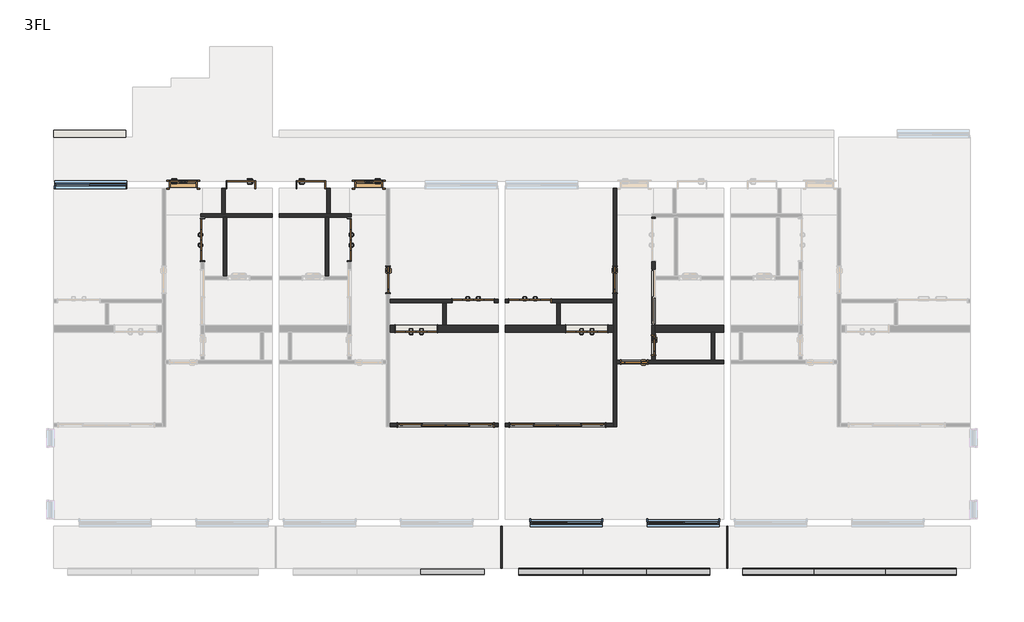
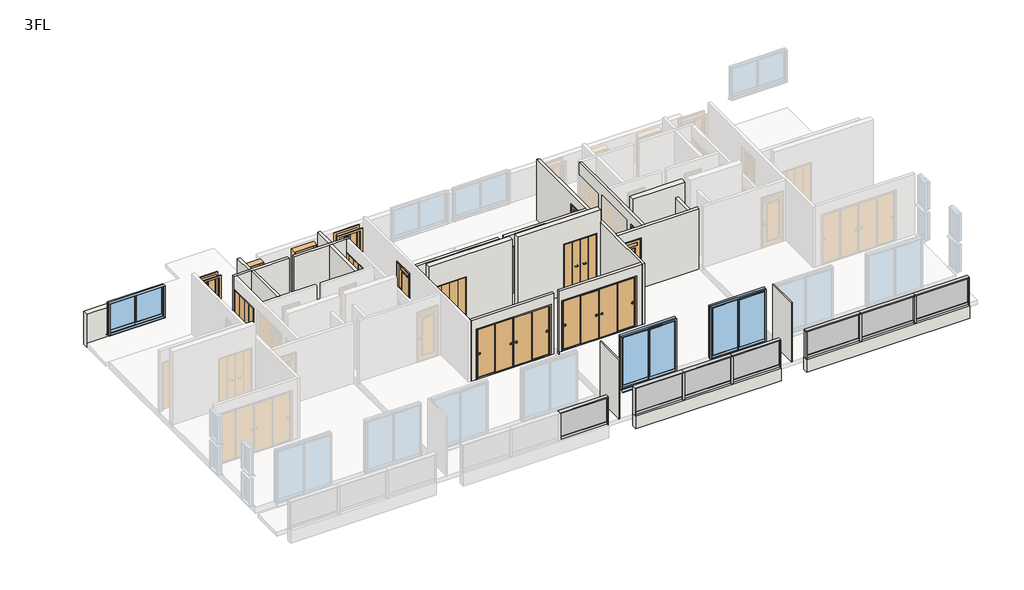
# One storey, part 2 of 3: 24 walls, 16 doors, 16 members, 7 plates, 3 windows.
"""IFC4 building model written with IfcOpenShell, lengths in millimetres."""

from ifc_helpers import new_model, si_unit, frame, origin, place, context, project, spatial, polyline, outline, extrude, faceted_brep, transform, mapped, element, save
from components import door_1200x2000_98cacc9b, door_1200x2000_6a144d60, door_1200x2000_ebe1d490, door_1200x2000_99d19fb3, door_2800x2000_670b855b, door_2800x2000_04aa64cd, door_600x2000_7f2747f4, door_800x2000_a7d1584b, door_800x2000_13e9f519, door_800x2000_ccb03061, door_800x2000_010bfebf, w800h2000_1d97c4d4, w800h2000_0ab7d42c, member_25x150_3f8205e2, member_25x150_e252ec85, member_25x150_8b8be5b9, member_25x150_69a01d83, member_25x150_4c9d34cf, member_70x150_851c8a9b, plate_5aac5250, plate_977e9fc7, plate_28239825, plate_ce56c4f8, window_2000x1200_fc91d1cf, window_2000x2000_f1ff98da

model = new_model("IFC4")

# Units and contexts
model_context = context("Model", 3, world=origin())
ifc_project = project(units=[si_unit("LENGTHUNIT", "METRE", prefix="MILLI")], contexts=[model_context])

# Site, building, storey
site = spatial("IfcSite", under=ifc_project)
building = spatial("IfcBuilding", under=site)
storey = spatial("IfcBuildingStorey", under=building, Name="3FL", Elevation=7000.0)

# Doors
placement = place(None, origin())
door_1200x2000_shape = door_1200x2000_98cacc9b(model_context)
element("IfcDoor", 1, ObjectType="木製折戸 : 1200x2000", at=placement, inside=storey, context=model_context, shape_type="MappedRepresentation", body=[
    mapped(door_1200x2000_shape, transform((4158.7812754, -9820.1171638, 7100.0), x_axis=(-1.0, 0.0, 0.0), y_axis=(0.0, -1.0, 0.0), z_axis=(0.0, 0.0, 1.0))),
])
door_1200x2000_2_shape = door_1200x2000_6a144d60(model_context)
element("IfcDoor", 2, ObjectType="木製折戸 : 1200x2000", at=placement, inside=storey, context=model_context, shape_type="MappedRepresentation", body=[
    mapped(door_1200x2000_2_shape, transform((-6828.7187246, -7280.1171638, 7000.0), x_axis=(0.0, 1.0, 0.0), y_axis=(-1.0, 0.0, 0.0), z_axis=(0.0, 0.0, 1.0))),
])
element("IfcDoor", 3, ObjectType="木製折戸 : 1200x2000", at=placement, inside=storey, context=model_context, shape_type="MappedRepresentation", body=[
    mapped(door_1200x2000_2_shape, transform((2533.7812754, -9020.1171638, 7000.0), x_axis=(1.0, 0.0, 0.0), y_axis=(0.0, 1.0, 0.0), z_axis=(0.0, 0.0, 1.0))),
])
door_1200x2000_3_shape = door_1200x2000_ebe1d490(model_context)
element("IfcDoor", 4, ObjectType="木製折戸 : 1200x2000", at=placement, inside=storey, context=model_context, shape_type="MappedRepresentation", body=[
    mapped(door_1200x2000_3_shape, transform((-716.2187246, -9820.1171638, 7100.0), x_axis=(1.0, 0.0, 0.0), y_axis=(0.0, 1.0, 0.0), z_axis=(0.0, 0.0, 1.0))),
])
door_1200x2000_4_shape = door_1200x2000_99d19fb3(model_context)
element("IfcDoor", 5, ObjectType="木製折戸 : 1200x2000", at=placement, inside=storey, context=model_context, shape_type="MappedRepresentation", body=[
    mapped(door_1200x2000_4_shape, transform((-2628.7187246, -7280.1171638, 7000.0), x_axis=(0.0, 1.0, 0.0), y_axis=(-1.0, 0.0, 0.0), z_axis=(0.0, 0.0, 1.0))),
])
element("IfcDoor", 6, ObjectType="木製折戸 : 1200x2000", at=placement, inside=storey, context=model_context, shape_type="MappedRepresentation", body=[
    mapped(door_1200x2000_4_shape, transform((908.7812754, -9020.1171638, 7000.0), x_axis=(-1.0, 0.0, 0.0), y_axis=(0.0, -1.0, 0.0), z_axis=(0.0, 0.0, 1.0))),
])
door_2800x2000_shape = door_2800x2000_670b855b(model_context)
element("IfcDoor", 7, ObjectType="引違い 4 枚 2 溝_襖 : 2800x2000", at=placement, inside=storey, context=model_context, shape_type="MappedRepresentation", body=[
    mapped(door_2800x2000_shape, transform((3326.8167793, -12570.1171638, 7100.0), x_axis=(1.0, 0.0, 0.0), y_axis=(0.0, 1.0, 0.0), z_axis=(0.0, 0.0, 1.0))),
])
door_2800x2000_2_shape = door_2800x2000_04aa64cd(model_context)
element("IfcDoor", 8, ObjectType="引違い 4 枚 2 溝_襖 : 2800x2000", at=placement, inside=storey, context=model_context, shape_type="MappedRepresentation", body=[
    mapped(door_2800x2000_2_shape, transform((115.7457714, -12570.1171638, 7100.0), x_axis=(-1.0, 0.0, 0.0), y_axis=(0.0, -1.0, 0.0), z_axis=(0.0, 0.0, 1.0))),
])
door_600x2000_shape = door_600x2000_7f2747f4(model_context)
element("IfcDoor", 9, ObjectType="片開き戸CL2058 : 600x2000", at=placement, inside=storey, context=model_context, shape_type="MappedRepresentation", body=[
    mapped(door_600x2000_shape, transform((6071.2812754, -10295.1171638, 7100.0), x_axis=(0.0, -1.0, 0.0), y_axis=(1.0, 0.0, 0.0), z_axis=(0.0, 0.0, 1.0))),
])
door_800x2000_shape = door_800x2000_a7d1584b(model_context)
element("IfcDoor", 10, ObjectType="片開き3 : 800x2000", at=placement, inside=storey, context=model_context, shape_type="MappedRepresentation", body=[
    mapped(door_800x2000_shape, transform((-7378.7187246, -5700.1171638, 7000.0), x_axis=(1.0, 0.0, 0.0), y_axis=(0.0, 1.0, 0.0), z_axis=(0.0, 0.0, 1.0))),
])
door_800x2000_2_shape = door_800x2000_13e9f519(model_context)
element("IfcDoor", 11, ObjectType="片開き戸CL2058 : 800x2000", at=placement, inside=storey, context=model_context, shape_type="MappedRepresentation", body=[
    mapped(door_800x2000_2_shape, transform((4971.2812754, -8420.1171638, 7100.0), x_axis=(0.0, -1.0, 0.0), y_axis=(1.0, 0.0, 0.0), z_axis=(0.0, 0.0, 1.0))),
])
door_800x2000_3_shape = door_800x2000_ccb03061(model_context)
element("IfcDoor", 12, ObjectType="片開き戸CL2058 : 800x2000", at=placement, inside=storey, context=model_context, shape_type="MappedRepresentation", body=[
    mapped(door_800x2000_3_shape, transform((-1528.7187246, -8420.1171638, 7100.0), x_axis=(0.0, -1.0, 0.0), y_axis=(1.0, 0.0, 0.0), z_axis=(0.0, 0.0, 1.0))),
])
element("IfcDoor", 13, ObjectType="片開き戸CL2058 : 800x2000", at=placement, inside=storey, context=model_context, shape_type="MappedRepresentation", body=[
    mapped(door_800x2000_3_shape, transform((5521.2812754, -10770.1171638, 7100.0), x_axis=(-1.0, 0.0, 0.0), y_axis=(0.0, -1.0, 0.0), z_axis=(0.0, 0.0, 1.0))),
])
door_800x2000_4_shape = door_800x2000_010bfebf(model_context)
element("IfcDoor", 14, ObjectType="片開き3 : 800x2000", at=placement, inside=storey, context=model_context, shape_type="MappedRepresentation", body=[
    mapped(door_800x2000_4_shape, transform((-2078.7187246, -5700.1171638, 7000.0), x_axis=(-1.0, 0.0, 0.0), y_axis=(0.0, -1.0, 0.0), z_axis=(0.0, 0.0, 1.0))),
])
w800h2000_shape = w800h2000_1d97c4d4(model_context)
element("IfcDoor", 15, ObjectType="片開き : w800h2000", at=placement, inside=storey, context=model_context, shape_type="MappedRepresentation", body=[
    mapped(w800h2000_shape, transform((-5728.7187246, -5700.1171638, 7000.0), x_axis=(-1.0, 0.0, 0.0), y_axis=(0.0, -1.0, 0.0), z_axis=(0.0, 0.0, 1.0))),
])
w800h2000_2_shape = w800h2000_0ab7d42c(model_context)
element("IfcDoor", 16, ObjectType="片開き : w800h2000", at=placement, inside=storey, context=model_context, shape_type="MappedRepresentation", body=[
    mapped(w800h2000_2_shape, transform((-3728.7187246, -5700.1171638, 7000.0), x_axis=(1.0, 0.0, 0.0), y_axis=(0.0, 1.0, 0.0), z_axis=(0.0, 0.0, 1.0))),
])

# Members
member_25x150_shape = member_25x150_3f8205e2(model_context)
element("IfcMember", 17, ObjectType="長方形のマリオン : 25x150", at=placement, inside=storey, context=model_context, shape_type="MappedRepresentation", body=[
    mapped(member_25x150_shape, transform((1221.2812754, -16770.1171638, 7000.0), x_axis=(1.0, 0.0, 0.0), y_axis=(0.0, -1.0, 0.0), z_axis=(0.0, 0.0, -1.0))),
])
element("IfcMember", 18, ObjectType="長方形のマリオン : 25x150", at=placement, inside=storey, context=model_context, shape_type="MappedRepresentation", body=[
    mapped(member_25x150_shape, transform((7671.2812754, -16770.1171638, 7000.0), x_axis=(1.0, 0.0, 0.0), y_axis=(0.0, -1.0, 0.0), z_axis=(0.0, 0.0, -1.0))),
])
element("IfcMember", 19, ObjectType="長方形のマリオン : 25x150", at=placement, inside=storey, context=model_context, shape_type="MappedRepresentation", body=[
    mapped(member_25x150_shape, transform((14721.2812754, -16770.1171638, 7000.0), x_axis=(1.0, 0.0, 0.0), y_axis=(0.0, -1.0, 0.0), z_axis=(0.0, 0.0, -1.0))),
])
element("IfcMember", 20, ObjectType="長方形のマリオン : 25x150", at=placement, inside=storey, context=model_context, shape_type="MappedRepresentation", body=[
    mapped(member_25x150_shape, transform((2221.2812754, -16770.1171638, 8075.0), x_axis=(-1.0, 0.0, 0.0), y_axis=(0.0, -1.0, 0.0), z_axis=(0.0, 0.0, 1.0))),
])
element("IfcMember", 21, ObjectType="長方形のマリオン : 25x150", at=placement, inside=storey, context=model_context, shape_type="MappedRepresentation", body=[
    mapped(member_25x150_shape, transform((8621.2812754, -16770.1171638, 8075.0), x_axis=(-1.0, 0.0, 0.0), y_axis=(0.0, -1.0, 0.0), z_axis=(0.0, 0.0, 1.0))),
])
member_25x150_2_shape = member_25x150_e252ec85(model_context)
element("IfcMember", 22, ObjectType="長方形のマリオン : 25x150", at=placement, inside=storey, context=model_context, shape_type="MappedRepresentation", body=[
    mapped(member_25x150_2_shape, transform((1221.2812754, -16770.1171638, 8100.0), x_axis=(0.0, 0.0, 1.0), y_axis=(0.0, -1.0, 0.0), z_axis=(1.0, 0.0, 0.0))),
])
element("IfcMember", 23, ObjectType="長方形のマリオン : 25x150", at=placement, inside=storey, context=model_context, shape_type="MappedRepresentation", body=[
    mapped(member_25x150_2_shape, transform((7671.2812754, -16770.1171638, 8100.0), x_axis=(0.0, 0.0, 1.0), y_axis=(0.0, -1.0, 0.0), z_axis=(1.0, 0.0, 0.0))),
])
element("IfcMember", 24, ObjectType="長方形のマリオン : 25x150", at=placement, inside=storey, context=model_context, shape_type="MappedRepresentation", body=[
    mapped(member_25x150_2_shape, transform((4037.9479421, -16770.1171638, 8100.0), x_axis=(0.0, 0.0, 1.0), y_axis=(0.0, -1.0, 0.0), z_axis=(1.0, 0.0, 0.0))),
])
member_25x150_3_shape = member_25x150_8b8be5b9(model_context)
element("IfcMember", 25, ObjectType="長方形のマリオン : 25x150", at=placement, inside=storey, context=model_context, shape_type="MappedRepresentation", body=[
    mapped(member_25x150_3_shape, transform((5854.6146086, -16770.1171638, 8100.0), x_axis=(0.0, 0.0, 1.0), y_axis=(0.0, -1.0, 0.0), z_axis=(1.0, 0.0, 0.0))),
])
member_25x150_4_shape = member_25x150_69a01d83(model_context)
element("IfcMember", 26, ObjectType="長方形のマリオン : 25x150", at=placement, inside=storey, context=model_context, shape_type="MappedRepresentation", body=[
    mapped(member_25x150_4_shape, transform((14721.2812754, -16770.1171638, 8100.0), x_axis=(0.0, 0.0, 1.0), y_axis=(0.0, -1.0, 0.0), z_axis=(1.0, 0.0, 0.0))),
])
element("IfcMember", 27, ObjectType="長方形のマリオン : 25x150", at=placement, inside=storey, context=model_context, shape_type="MappedRepresentation", body=[
    mapped(member_25x150_4_shape, transform((10654.6146088, -16770.1171638, 8100.0), x_axis=(0.0, 0.0, 1.0), y_axis=(0.0, -1.0, 0.0), z_axis=(1.0, 0.0, 0.0))),
])
member_25x150_5_shape = member_25x150_4c9d34cf(model_context)
element("IfcMember", 28, ObjectType="長方形のマリオン : 25x150", at=placement, inside=storey, context=model_context, shape_type="MappedRepresentation", body=[
    mapped(member_25x150_5_shape, transform((12687.9479419, -16770.1171638, 8100.0), x_axis=(0.0, 0.0, 1.0), y_axis=(0.0, -1.0, 0.0), z_axis=(1.0, 0.0, 0.0))),
])
member_70x150_shape = member_70x150_851c8a9b(model_context)
element("IfcMember", 29, ObjectType="長方形のマリオン : 70x150", at=placement, inside=storey, context=model_context, shape_type="MappedRepresentation", body=[
    mapped(member_70x150_shape, transform((4037.9479421, -16770.1171638, 7000.0), x_axis=(1.0, 0.0, 0.0), y_axis=(0.0, -1.0, 0.0), z_axis=(0.0, 0.0, -1.0))),
])
element("IfcMember", 30, ObjectType="長方形のマリオン : 70x150", at=placement, inside=storey, context=model_context, shape_type="MappedRepresentation", body=[
    mapped(member_70x150_shape, transform((5854.6146086, -16770.1171638, 7000.0), x_axis=(1.0, 0.0, 0.0), y_axis=(0.0, -1.0, 0.0), z_axis=(0.0, 0.0, -1.0))),
])
element("IfcMember", 31, ObjectType="長方形のマリオン : 70x150", at=placement, inside=storey, context=model_context, shape_type="MappedRepresentation", body=[
    mapped(member_70x150_shape, transform((10654.6146088, -16770.1171638, 7000.0), x_axis=(1.0, 0.0, 0.0), y_axis=(0.0, -1.0, 0.0), z_axis=(0.0, 0.0, -1.0))),
])
element("IfcMember", 32, ObjectType="長方形のマリオン : 70x150", at=placement, inside=storey, context=model_context, shape_type="MappedRepresentation", body=[
    mapped(member_70x150_shape, transform((12687.9479419, -16770.1171638, 7000.0), x_axis=(1.0, 0.0, 0.0), y_axis=(0.0, -1.0, 0.0), z_axis=(0.0, 0.0, -1.0))),
])

# Plates
plate_shape = plate_5aac5250(model_context)
element("IfcPlate", 33, ObjectType="r パネル FIX 下框付 : 框 H100", at=placement, inside=storey, context=model_context, shape_type="MappedRepresentation", body=[
    mapped(plate_shape, transform((317.947942, -16770.1171638, 7000.0), x_axis=(1.0, 0.0, 0.0), y_axis=(0.0, 1.0, 0.0), z_axis=(0.0, 0.0, 1.0))),
])
element("IfcPlate", 34, ObjectType="r パネル FIX 下框付 : 框 H100", at=placement, inside=storey, context=model_context, shape_type="MappedRepresentation", body=[
    mapped(plate_shape, transform((3124.6146087, -16770.1171638, 7000.0), x_axis=(1.0, 0.0, 0.0), y_axis=(0.0, 1.0, 0.0), z_axis=(0.0, 0.0, 1.0))),
])
element("IfcPlate", 35, ObjectType="r パネル FIX 下框付 : 框 H100", at=placement, inside=storey, context=model_context, shape_type="MappedRepresentation", body=[
    mapped(plate_shape, transform((6767.947942, -16770.1171638, 7000.0), x_axis=(1.0, 0.0, 0.0), y_axis=(0.0, 1.0, 0.0), z_axis=(0.0, 0.0, 1.0))),
])
plate_2_shape = plate_977e9fc7(model_context)
element("IfcPlate", 36, ObjectType="r パネル FIX 下框付 : 框 H100", at=placement, inside=storey, context=model_context, shape_type="MappedRepresentation", body=[
    mapped(plate_2_shape, transform((4946.2812754, -16770.1171638, 7000.0), x_axis=(1.0, 0.0, 0.0), y_axis=(0.0, 1.0, 0.0), z_axis=(0.0, 0.0, 1.0))),
])
plate_3_shape = plate_28239825(model_context)
element("IfcPlate", 37, ObjectType="r パネル FIX 下框付 : 框 H100", at=placement, inside=storey, context=model_context, shape_type="MappedRepresentation", body=[
    mapped(plate_3_shape, transform((9632.9479421, -16770.1171638, 7000.0), x_axis=(1.0, 0.0, 0.0), y_axis=(0.0, 1.0, 0.0), z_axis=(0.0, 0.0, 1.0))),
])
element("IfcPlate", 38, ObjectType="r パネル FIX 下框付 : 框 H100", at=placement, inside=storey, context=model_context, shape_type="MappedRepresentation", body=[
    mapped(plate_3_shape, transform((13709.6146086, -16770.1171638, 7000.0), x_axis=(1.0, 0.0, 0.0), y_axis=(0.0, 1.0, 0.0), z_axis=(0.0, 0.0, 1.0))),
])
plate_4_shape = plate_ce56c4f8(model_context)
element("IfcPlate", 39, ObjectType="r パネル FIX 下框付 : 框 H100", at=placement, inside=storey, context=model_context, shape_type="MappedRepresentation", body=[
    mapped(plate_4_shape, transform((11671.2812754, -16770.1171638, 7000.0), x_axis=(1.0, 0.0, 0.0), y_axis=(0.0, 1.0, 0.0), z_axis=(0.0, 0.0, 1.0))),
])

# Walls
element("IfcWall", 40, ObjectType="(R)RC200", at=placement, inside=storey, context=model_context, shape_type="Brep", body=[
    faceted_brep([(1621.2812754, -9720.1171638, 7000.0), (146.2812754, -9720.1171638, 7000.0), (46.2812754, -9720.1171638, 7000.0), (-1478.7187246, -9720.1171638, 7000.0), (-1478.7187246, -9720.1171638, 10000.0), (1621.2812754, -9720.1171638, 10000.0), (-96.2187246, -9720.1171638, 9120.0), (-1336.2187246, -9720.1171638, 9120.0), (-1336.2187246, -9720.1171638, 7100.0), (-96.2187246, -9720.1171638, 7100.0), (1621.2812754, -9920.1171638, 7000.0), (1621.2812754, -9920.1171638, 10000.0), (-1478.7187246, -9920.1171638, 10000.0), (-1478.7187246, -9920.1171638, 7000.0), (-96.2187246, -9920.1171638, 9120.0), (-96.2187246, -9920.1171638, 7100.0), (-1336.2187246, -9920.1171638, 7100.0), (-1336.2187246, -9920.1171638, 9120.0)], [[[0, 1, 2, 3, 4, 5], [6, 7, 8, 9]], [[10, 11, 12, 13], [14, 15, 16, 17]], [[3, 2, 1, 0, 10, 13]], [[5, 4, 12, 11]], [[15, 14, 6, 9]], [[16, 15, 9, 8]], [[17, 16, 8, 7]], [[14, 17, 7, 6]], [[4, 3, 13, 12]], [[0, 5, 11, 10]]]),
])
element("IfcWall", 41, ObjectType="(R)RC200", at=placement, inside=storey, context=model_context, shape_type="Brep", body=[
    faceted_brep([(1821.2812754, -9920.1171638, 7000.0), (4921.2812754, -9920.1171638, 7000.0), (4921.2812754, -9920.1171638, 10000.0), (1821.2812754, -9920.1171638, 10000.0), (3538.7812754, -9920.1171638, 9120.0), (4778.7812754, -9920.1171638, 9120.0), (4778.7812754, -9920.1171638, 7100.0), (3538.7812754, -9920.1171638, 7100.0), (1821.2812754, -9720.1171638, 7000.0), (1821.2812754, -9720.1171638, 10000.0), (4921.2812754, -9720.1171638, 10000.0), (4921.2812754, -9720.1171638, 7000.0), (3396.2812754, -9720.1171638, 7000.0), (3296.2812754, -9720.1171638, 7000.0), (3538.7812754, -9720.1171638, 9120.0), (3538.7812754, -9720.1171638, 7100.0), (4778.7812754, -9720.1171638, 7100.0), (4778.7812754, -9720.1171638, 9120.0)], [[[0, 1, 2, 3], [4, 5, 6, 7]], [[8, 9, 10, 11, 12, 13], [14, 15, 16, 17]], [[1, 0, 8, 13, 12, 11]], [[3, 2, 10, 9]], [[15, 14, 4, 7]], [[16, 15, 7, 6]], [[17, 16, 6, 5]], [[14, 17, 5, 4]], [[2, 1, 11, 10]], [[0, 3, 9, 8]]]),
])
element("IfcWall", 42, ObjectType="(R)RC200", at=placement, inside=storey, context=model_context, shape_type="Brep", body=[
    faceted_brep([(6121.2812754, -9920.1171638, 7000.0), (7721.2812754, -9920.1171638, 7000.0), (7821.2812754, -9920.1171638, 7000.0), (8071.2812754, -9920.1171638, 7000.0), (8071.2812754, -9920.1171638, 10000.0), (6121.2812754, -9920.1171638, 10000.0), (6121.2812754, -9720.1171638, 7000.0), (6121.2812754, -9720.1171638, 7100.0), (6121.2812754, -9720.1171638, 9100.0), (6121.2812754, -9720.1171638, 10000.0), (8071.2812754, -9720.1171638, 10000.0), (8071.2812754, -9720.1171638, 7000.0)], [[[0, 1, 2, 3, 4, 5]], [[6, 7, 8, 9, 10, 11]], [[3, 2, 1, 0, 6, 11]], [[5, 4, 10, 9]], [[0, 5, 9, 8, 7, 6]], [[4, 3, 11, 10]]]),
])
element("IfcWall", 43, ObjectType="(R)RC200", at=placement, inside=storey, context=model_context, shape_type="Brep", body=[
    faceted_brep([(-11078.7187246, -4350.1171638, 6800.0), (-9028.7187246, -4350.1171638, 6800.0), (-9028.7187246, -4350.1171638, 8068.2352941), (-9028.7187246, -4350.1171638, 8100.0), (-11078.7187246, -4350.1171638, 8100.0), (-11078.7187246, -4150.1171638, 6800.0), (-11078.7187246, -4150.1171638, 8100.0), (-9028.7187246, -4150.1171638, 8100.0), (-9028.7187246, -4150.1171638, 6800.0)], [[[0, 1, 2, 3, 4]], [[5, 6, 7, 8]], [[1, 0, 5, 8]], [[4, 3, 7, 6]], [[0, 4, 6, 5]], [[3, 2, 1, 8, 7]]]),
])
element("IfcWall", 44, ObjectType="(R)RC200", at=placement, inside=storey, context=model_context, shape_type="SweptSolid", body=[
    extrude(outline(polyline([(7671.2812754, -16870.1171638), (2221.2812754, -16870.1171638), (2221.2812754, -16670.1171638), (7671.2812754, -16670.1171638), (7671.2812754, -16870.1171638)])), frame((0.0, 0.0, 6500.0), z_axis=(0.0, 0.0, 1.0), x_axis=(1.0, 0.0, 0.0)), (0.0, 0.0, 1.0), 500.0),
])
element("IfcWall", 45, ObjectType="(R)RC200", at=placement, inside=storey, context=model_context, shape_type="SweptSolid", body=[
    extrude(outline(polyline([(14721.2812754, -16870.1171638), (8621.2812754, -16870.1171638), (8621.2812754, -16670.1171638), (14721.2812754, -16670.1171638), (14721.2812754, -16870.1171638)])), frame((0.0, 0.0, 6500.0), z_axis=(0.0, 0.0, 1.0), x_axis=(1.0, 0.0, 0.0)), (0.0, 0.0, 1.0), 500.0),
])
element("IfcWall", 46, ObjectType="(F)30", at=placement, inside=storey, context=model_context, shape_type="SweptSolid", body=[
    extrude(outline(polyline([(1706.2812754, -16670.1171638), (1706.2812754, -15470.1171638), (1736.2812754, -15470.1171638), (1736.2812754, -16670.1171638), (1706.2812754, -16670.1171638)])), frame((0.0, 0.0, 6950.0), z_axis=(0.0, 0.0, 1.0), x_axis=(1.0, 0.0, 0.0)), (0.0, 0.0, 1.0), 2350.0),
])
element("IfcWall", 47, ObjectType="(F)30", at=placement, inside=storey, context=model_context, shape_type="SweptSolid", body=[
    extrude(outline(polyline([(8156.2812754, -16670.1171638), (8156.2812754, -15470.1171638), (8186.2812754, -15470.1171638), (8186.2812754, -16670.1171638), (8156.2812754, -16670.1171638)])), frame((0.0, 0.0, 6950.0), z_axis=(0.0, 0.0, 1.0), x_axis=(1.0, 0.0, 0.0)), (0.0, 0.0, 1.0), 2350.0),
])
element("IfcWall", 48, ObjectType="(L1)LGS100", at=placement, inside=storey, context=model_context, shape_type="Brep", body=[
    faceted_brep([(-6878.7187246, -6630.1171638, 7000.0), (-6778.7187246, -6630.1171638, 7000.0), (-6238.7187246, -6630.1171638, 7000.0), (-6138.7187246, -6630.1171638, 7000.0), (-4828.7187246, -6630.1171638, 7000.0), (-4828.7187246, -6630.1171638, 9500.0), (-6138.7187246, -6630.1171638, 9500.0), (-6238.7187246, -6630.1171638, 9500.0), (-6778.7187246, -6630.1171638, 9500.0), (-6878.7187246, -6630.1171638, 9500.0), (-6878.7187246, -6530.1171638, 7000.0), (-6878.7187246, -6530.1171638, 9500.0), (-6278.7187246, -6530.1171638, 9500.0), (-6178.7187246, -6530.1171638, 9500.0), (-4828.7187246, -6530.1171638, 9500.0), (-4828.7187246, -6530.1171638, 7000.0), (-6178.7187246, -6530.1171638, 7000.0), (-6278.7187246, -6530.1171638, 7000.0)], [[[0, 1, 2, 3, 4, 5, 6, 7, 8, 9]], [[10, 11, 12, 13, 14, 15, 16, 17]], [[4, 3, 2, 1, 0, 10, 17, 16, 15]], [[9, 8, 7, 6, 5, 14, 13, 12, 11]], [[0, 9, 11, 10]], [[5, 4, 15, 14]]]),
])
element("IfcWall", 49, ObjectType="(L1)LGS100", at=placement, inside=storey, context=model_context, shape_type="SweptSolid", body=[
    extrude(outline(polyline([(-6178.7187246, -5800.1171638), (-6178.7187246, -6530.1171638), (-6278.7187246, -6530.1171638), (-6278.7187246, -5800.1171638), (-6178.7187246, -5800.1171638)])), frame((0.0, 0.0, 7000.0), z_axis=(0.0, 0.0, 1.0), x_axis=(1.0, 0.0, 0.0)), (0.0, 0.0, 1.0), 2500.0),
])
element("IfcWall", 50, ObjectType="(L1)LGS100", at=placement, inside=storey, context=model_context, shape_type="SweptSolid", body=[
    extrude(outline(polyline([(-6138.7187246, -6630.1171638), (-6138.7187246, -8320.1171638), (-6238.7187246, -8320.1171638), (-6238.7187246, -6630.1171638), (-6138.7187246, -6630.1171638)])), frame((0.0, 0.0, 7000.0), z_axis=(0.0, 0.0, 1.0), x_axis=(1.0, 0.0, 0.0)), (0.0, 0.0, 1.0), 2500.0),
])
element("IfcWall", 51, ObjectType="(L1)LGS100", at=placement, inside=storey, context=model_context, shape_type="Brep", body=[
    faceted_brep([(-2578.7187246, -6530.1171638, 7000.0), (-3178.7187246, -6530.1171638, 7000.0), (-3278.7187246, -6530.1171638, 7000.0), (-4628.7187246, -6530.1171638, 7000.0), (-4628.7187246, -6530.1171638, 9500.0), (-3278.7187246, -6530.1171638, 9500.0), (-3178.7187246, -6530.1171638, 9500.0), (-2578.7187246, -6530.1171638, 9500.0), (-2578.7187246, -6630.1171638, 7000.0), (-2578.7187246, -6630.1171638, 9500.0), (-2678.7187246, -6630.1171638, 9500.0), (-3218.7187246, -6630.1171638, 9500.0), (-3318.7187246, -6630.1171638, 9500.0), (-4628.7187246, -6630.1171638, 9500.0), (-4628.7187246, -6630.1171638, 7000.0), (-3318.7187246, -6630.1171638, 7000.0), (-3218.7187246, -6630.1171638, 7000.0), (-2678.7187246, -6630.1171638, 7000.0)], [[[0, 1, 2, 3, 4, 5, 6, 7]], [[8, 9, 10, 11, 12, 13, 14, 15, 16, 17]], [[3, 2, 1, 0, 8, 17, 16, 15, 14]], [[7, 6, 5, 4, 13, 12, 11, 10, 9]], [[0, 7, 9, 8]], [[4, 3, 14, 13]]]),
])
element("IfcWall", 52, ObjectType="(L1)LGS100", at=placement, inside=storey, context=model_context, shape_type="SweptSolid", body=[
    extrude(outline(polyline([(-3178.7187246, -5800.1171638), (-3178.7187246, -6530.1171638), (-3278.7187246, -6530.1171638), (-3278.7187246, -5800.1171638), (-3178.7187246, -5800.1171638)])), frame((0.0, 0.0, 7000.0), z_axis=(0.0, 0.0, 1.0), x_axis=(1.0, 0.0, 0.0)), (0.0, 0.0, 1.0), 2500.0),
])
element("IfcWall", 53, ObjectType="(L1)LGS100", at=placement, inside=storey, context=model_context, shape_type="SweptSolid", body=[
    extrude(outline(polyline([(-3218.7187246, -6630.1171638), (-3218.7187246, -8320.1171638), (-3318.7187246, -8320.1171638), (-3318.7187246, -6630.1171638), (-3218.7187246, -6630.1171638)])), frame((0.0, 0.0, 7000.0), z_axis=(0.0, 0.0, 1.0), x_axis=(1.0, 0.0, 0.0)), (0.0, 0.0, 1.0), 2500.0),
])
element("IfcWall", 54, ObjectType="(L1)LGS100", at=placement, inside=storey, context=model_context, shape_type="Brep", body=[
    faceted_brep([(1621.2812754, -8970.1171638, 7000.0), (1528.7812754, -8970.1171638, 7000.0), (1528.7812754, -8970.1171638, 9020.0), (288.7812754, -8970.1171638, 9020.0), (288.7812754, -8970.1171638, 7000.0), (-1478.7187246, -8970.1171638, 7000.0), (-1478.7187246, -8970.1171638, 9500.0), (1621.2812754, -8970.1171638, 9500.0), (1528.7812754, -9070.1171638, 9020.0), (1528.7812754, -9070.1171638, 7000.0), (1621.2812754, -9070.1171638, 7000.0), (1621.2812754, -9070.1171638, 9500.0), (146.2812754, -9070.1171638, 9500.0), (46.2812754, -9070.1171638, 9500.0), (-1478.7187246, -9070.1171638, 9500.0), (-1478.7187246, -9070.1171638, 7000.0), (46.2812754, -9070.1171638, 7000.0), (146.2812754, -9070.1171638, 7000.0), (288.7812754, -9070.1171638, 7000.0), (288.7812754, -9070.1171638, 9020.0)], [[[0, 1, 2, 3, 4, 5, 6, 7]], [[8, 9, 10, 11, 12, 13, 14, 15, 16, 17, 18, 19]], [[10, 9, 1, 0]], [[18, 17, 16, 15, 5, 4]], [[7, 6, 14, 13, 12, 11]], [[4, 3, 19, 18]], [[2, 1, 9, 8]], [[3, 2, 8, 19]], [[6, 5, 15, 14]], [[0, 7, 11, 10]]]),
])
element("IfcWall", 55, ObjectType="(L1)LGS100", at=placement, inside=storey, context=model_context, shape_type="SweptSolid", body=[
    extrude(outline(polyline([(146.2812754, -9070.1171638), (146.2812754, -9720.1171638), (46.2812754, -9720.1171638), (46.2812754, -9070.1171638), (146.2812754, -9070.1171638)])), frame((0.0, 0.0, 7000.0), z_axis=(0.0, 0.0, 1.0), x_axis=(1.0, 0.0, 0.0)), (0.0, 0.0, 1.0), 2500.0),
])
element("IfcWall", 56, ObjectType="(L1)LGS100", at=placement, inside=storey, context=model_context, shape_type="SweptSolid", body=[
    extrude(outline(polyline([(7000.0, 1621.2812754), (9500.0, 1621.2812754), (9500.0, -1478.7187246), (7000.0, -1478.7187246), (7000.0, 1621.2812754)]), holes=[polyline([(9100.0, -1278.7187246), (9100.0, 1521.2812754), (7100.0, 1521.2812754), (7100.0, -1278.7187246), (9100.0, -1278.7187246)])]), frame((0.0, -12620.1171638, 0.0), z_axis=(0.0, 1.0, 0.0), x_axis=(0.0, 0.0, 1.0)), (0.0, 0.0, 1.0), 100.0),
])
element("IfcWall", 57, ObjectType="(L1)LGS100", at=placement, inside=storey, context=model_context, shape_type="Brep", body=[
    faceted_brep([(5021.2812754, -12620.1171638, 7000.0), (5021.2812754, -10820.1171638, 7000.0), (5021.2812754, -10720.1171638, 7000.0), (5021.2812754, -5800.1171638, 7000.0), (5021.2812754, -5800.1171638, 9500.0), (5021.2812754, -10720.1171638, 9500.0), (5021.2812754, -10820.1171638, 9500.0), (5021.2812754, -12620.1171638, 9500.0), (5021.2812754, -8820.1171638, 7100.0), (5021.2812754, -8820.1171638, 9100.0), (5021.2812754, -8020.1171638, 9100.0), (5021.2812754, -8020.1171638, 7100.0), (4921.2812754, -12620.1171638, 7000.0), (4921.2812754, -12620.1171638, 9500.0), (4921.2812754, -12520.1171638, 9500.0), (4921.2812754, -9070.1171638, 9500.0), (4921.2812754, -8970.1171638, 9500.0), (4921.2812754, -5800.1171638, 9500.0), (4921.2812754, -5800.1171638, 7000.0), (4921.2812754, -8970.1171638, 7000.0), (4921.2812754, -9070.1171638, 7000.0), (4921.2812754, -9720.1171638, 7000.0), (4921.2812754, -9920.1171638, 7000.0), (4921.2812754, -12520.1171638, 7000.0), (4921.2812754, -8820.1171638, 7100.0), (4921.2812754, -8020.1171638, 7100.0), (4921.2812754, -8020.1171638, 9100.0), (4921.2812754, -8820.1171638, 9100.0)], [[[0, 1, 2, 3, 4, 5, 6, 7], [8, 9, 10, 11]], [[12, 13, 14, 15, 16, 17, 18, 19, 20, 21, 22, 23], [24, 25, 26, 27]], [[3, 2, 1, 0, 12, 23, 22, 21, 20, 19, 18]], [[7, 6, 5, 4, 17, 16, 15, 14, 13]], [[9, 8, 24, 27]], [[10, 9, 27, 26]], [[11, 10, 26, 25]], [[8, 11, 25, 24]], [[0, 7, 13, 12]], [[4, 3, 18, 17]]]),
])
element("IfcWall", 58, ObjectType="(L1)LGS100", at=placement, inside=storey, context=model_context, shape_type="Brep", body=[
    faceted_brep([(6121.2812754, -6630.1171638, 9500.0), (6121.2812754, -8320.1171638, 9500.0), (6121.2812754, -8420.1171638, 9500.0), (6121.2812754, -10720.1171638, 9500.0), (6121.2812754, -10720.1171638, 7000.0), (6121.2812754, -9920.1171638, 7000.0), (6121.2812754, -9720.1171638, 7000.0), (6121.2812754, -8420.1171638, 7000.0), (6121.2812754, -8320.1171638, 7000.0), (6121.2812754, -7900.1171638, 7000.0), (6121.2812754, -7900.1171638, 9020.0), (6121.2812754, -6660.1171638, 9020.0), (6121.2812754, -6660.1171638, 7000.0), (6121.2812754, -6630.1171638, 7000.0), (6121.2812754, -10595.1171638, 7100.0), (6121.2812754, -10595.1171638, 9100.0), (6121.2812754, -9995.1171638, 9100.0), (6121.2812754, -9995.1171638, 7100.0), (6121.2812754, -9720.1171638, 7100.0), (6121.2812754, -9720.1171638, 9100.0), (6121.2812754, -8120.1171638, 9100.0), (6121.2812754, -8120.1171638, 7100.0), (6021.2812754, -10720.1171638, 9500.0), (6021.2812754, -6630.1171638, 9500.0), (6021.2812754, -6630.1171638, 7000.0), (6021.2812754, -6660.1171638, 7000.0), (6021.2812754, -6660.1171638, 9020.0), (6021.2812754, -7900.1171638, 9020.0), (6021.2812754, -7900.1171638, 7000.0), (6021.2812754, -10720.1171638, 7000.0), (6021.2812754, -10595.1171638, 7100.0), (6021.2812754, -9995.1171638, 7100.0), (6021.2812754, -9995.1171638, 9100.0), (6021.2812754, -10595.1171638, 9100.0), (6021.2812754, -9720.1171638, 9100.0), (6021.2812754, -9720.1171638, 7100.0), (6021.2812754, -8120.1171638, 7100.0), (6021.2812754, -8120.1171638, 9100.0)], [[[0, 1, 2, 3, 4, 5, 6, 7, 8, 9, 10, 11, 12, 13], [14, 15, 16, 17], [18, 19, 20, 21]], [[22, 23, 24, 25, 26, 27, 28, 29], [30, 31, 32, 33], [34, 35, 36, 37]], [[12, 25, 24, 13]], [[28, 9, 8, 7, 6, 5, 4, 29]], [[3, 2, 1, 0, 23, 22]], [[15, 14, 30, 33]], [[16, 15, 33, 32]], [[17, 16, 32, 31]], [[14, 17, 31, 30]], [[18, 35, 34, 19]], [[19, 34, 37, 20]], [[20, 37, 36, 21]], [[35, 18, 21, 36]], [[12, 11, 26, 25]], [[10, 9, 28, 27]], [[11, 10, 27, 26]], [[4, 3, 22, 29]], [[0, 13, 24, 23]]]),
])
element("IfcWall", 59, ObjectType="(L1)LGS100", at=placement, inside=storey, context=model_context, shape_type="Brep", body=[
    faceted_brep([(5021.2812754, -10820.1171638, 7000.0), (8071.2812754, -10820.1171638, 7000.0), (8071.2812754, -10820.1171638, 9500.0), (5021.2812754, -10820.1171638, 9500.0), (5121.2812754, -10820.1171638, 7100.0), (5121.2812754, -10820.1171638, 9100.0), (5921.2812754, -10820.1171638, 9100.0), (5921.2812754, -10820.1171638, 7100.0), (5021.2812754, -10720.1171638, 7000.0), (5021.2812754, -10720.1171638, 9500.0), (6021.2812754, -10720.1171638, 9500.0), (6121.2812754, -10720.1171638, 9500.0), (7721.2812754, -10720.1171638, 9500.0), (7821.2812754, -10720.1171638, 9500.0), (8071.2812754, -10720.1171638, 9500.0), (8071.2812754, -10720.1171638, 7000.0), (7821.2812754, -10720.1171638, 7000.0), (7721.2812754, -10720.1171638, 7000.0), (6121.2812754, -10720.1171638, 7000.0), (6021.2812754, -10720.1171638, 7000.0), (5121.2812754, -10720.1171638, 7100.0), (5921.2812754, -10720.1171638, 7100.0), (5921.2812754, -10720.1171638, 9100.0), (5121.2812754, -10720.1171638, 9100.0)], [[[0, 1, 2, 3], [4, 5, 6, 7]], [[8, 9, 10, 11, 12, 13, 14, 15, 16, 17, 18, 19], [20, 21, 22, 23]], [[1, 0, 8, 19, 18, 17, 16, 15]], [[3, 2, 14, 13, 12, 11, 10, 9]], [[5, 4, 20, 23]], [[6, 5, 23, 22]], [[7, 6, 22, 21]], [[4, 7, 21, 20]], [[0, 3, 9, 8]], [[2, 1, 15, 14]]]),
])
element("IfcWall", 60, ObjectType="(L1)LGS100", at=placement, inside=storey, context=model_context, shape_type="SweptSolid", body=[
    extrude(outline(polyline([(7821.2812754, -9920.1171638), (7821.2812754, -10720.1171638), (7721.2812754, -10720.1171638), (7721.2812754, -9920.1171638), (7821.2812754, -9920.1171638)])), frame((0.0, 0.0, 7000.0), z_axis=(0.0, 0.0, 1.0), x_axis=(1.0, 0.0, 0.0)), (0.0, 0.0, 1.0), 2500.0),
])
element("IfcWall", 61, ObjectType="(L1)LGS100", at=placement, inside=storey, context=model_context, shape_type="Brep", body=[
    faceted_brep([(1821.2812754, -9070.1171638, 7000.0), (1913.7812754, -9070.1171638, 7000.0), (1913.7812754, -9070.1171638, 9020.0), (3153.7812754, -9070.1171638, 9020.0), (3153.7812754, -9070.1171638, 7000.0), (3296.2812754, -9070.1171638, 7000.0), (3396.2812754, -9070.1171638, 7000.0), (4921.2812754, -9070.1171638, 7000.0), (4921.2812754, -9070.1171638, 9500.0), (3396.2812754, -9070.1171638, 9500.0), (3296.2812754, -9070.1171638, 9500.0), (1821.2812754, -9070.1171638, 9500.0), (1913.7812754, -8970.1171638, 9020.0), (1913.7812754, -8970.1171638, 7000.0), (1821.2812754, -8970.1171638, 7000.0), (1821.2812754, -8970.1171638, 9500.0), (4921.2812754, -8970.1171638, 9500.0), (4921.2812754, -8970.1171638, 7000.0), (3153.7812754, -8970.1171638, 7000.0), (3153.7812754, -8970.1171638, 9020.0)], [[[0, 1, 2, 3, 4, 5, 6, 7, 8, 9, 10, 11]], [[12, 13, 14, 15, 16, 17, 18, 19]], [[18, 17, 7, 6, 5, 4]], [[14, 13, 1, 0]], [[11, 10, 9, 8, 16, 15]], [[4, 3, 19, 18]], [[2, 1, 13, 12]], [[3, 2, 12, 19]], [[8, 7, 17, 16]], [[0, 11, 15, 14]]]),
])
element("IfcWall", 62, ObjectType="(L1)LGS100", at=placement, inside=storey, context=model_context, shape_type="SweptSolid", body=[
    extrude(outline(polyline([(3396.2812754, -9070.1171638), (3396.2812754, -9720.1171638), (3296.2812754, -9720.1171638), (3296.2812754, -9070.1171638), (3396.2812754, -9070.1171638)])), frame((0.0, 0.0, 7000.0), z_axis=(0.0, 0.0, 1.0), x_axis=(1.0, 0.0, 0.0)), (0.0, 0.0, 1.0), 2500.0),
])
element("IfcWall", 63, ObjectType="(L1)LGS100", at=placement, inside=storey, context=model_context, shape_type="SweptSolid", body=[
    extrude(outline(polyline([(7000.0, 1821.2812754), (7000.0, 4921.2812754), (9500.0, 4921.2812754), (9500.0, 1821.2812754), (7000.0, 1821.2812754)]), holes=[polyline([(9100.0, 4721.2812754), (7100.0, 4721.2812754), (7100.0, 1921.2812754), (9100.0, 1921.2812754), (9100.0, 4721.2812754)])]), frame((0.0, -12620.1171638, 0.0), z_axis=(0.0, 1.0, 0.0), x_axis=(0.0, 0.0, 1.0)), (0.0, 0.0, 1.0), 100.0),
])

# Windows
window_2000x1200_shape = window_2000x1200_fc91d1cf(model_context)
element("IfcWindow", 64, ObjectType="鋼製_一般枠_引違い-二枚 : 2000x1200", at=placement, inside=storey, context=model_context, shape_type="MappedRepresentation", body=[
    mapped(window_2000x1200_shape, transform((-10028.7187246, -5700.1171638, 7250.0), x_axis=(1.0, 0.0, 0.0), y_axis=(0.0, 1.0, 0.0), z_axis=(0.0, 0.0, 1.0))),
])
window_2000x2000_shape = window_2000x2000_f1ff98da(model_context)
element("IfcWindow", 65, ObjectType="鋼製_一般枠_引違い-二枚 : 2000x2000", at=placement, inside=storey, context=model_context, shape_type="MappedRepresentation", body=[
    mapped(window_2000x2000_shape, transform((3571.2812754, -15370.1171638, 6200.0), x_axis=(-1.0, 0.0, 0.0), y_axis=(0.0, -1.0, 0.0), z_axis=(0.0, 0.0, 1.0))),
])
element("IfcWindow", 66, ObjectType="鋼製_一般枠_引違い-二枚 : 2000x2000", at=placement, inside=storey, context=model_context, shape_type="MappedRepresentation", body=[
    mapped(window_2000x2000_shape, transform((6921.2812754, -15370.1171638, 6200.0), x_axis=(-1.0, 0.0, 0.0), y_axis=(0.0, -1.0, 0.0), z_axis=(0.0, 0.0, 1.0))),
])

save(model, "model.ifc")
